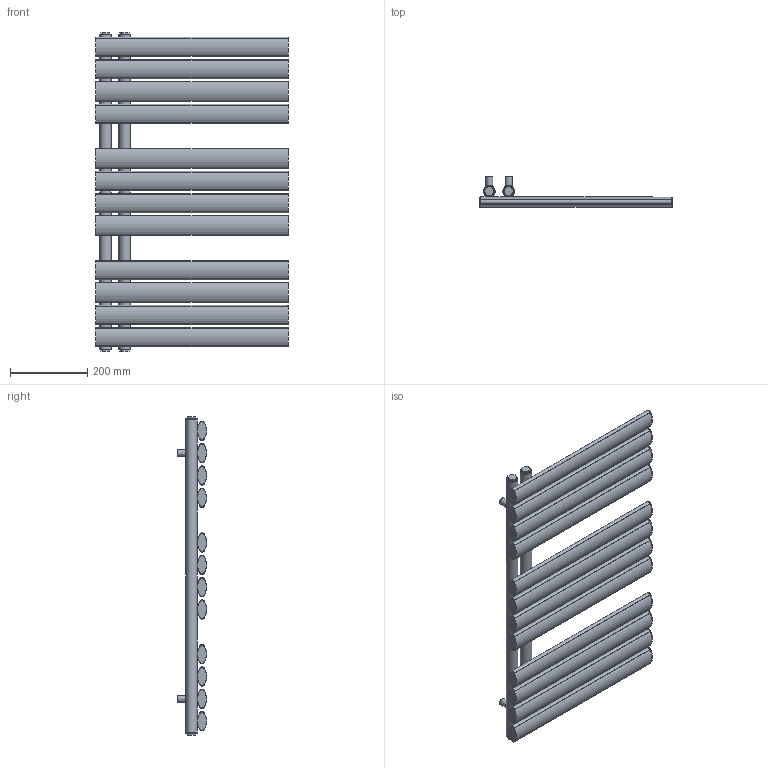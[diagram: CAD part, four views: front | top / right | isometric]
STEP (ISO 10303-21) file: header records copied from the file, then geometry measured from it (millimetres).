
FILE_DESCRIPTION(/* description */ (''),/* implementation_level */ '2;1');
FILE_NAME(/* name */ 'C:\Grzejniki\13DLUXRAD\łazienkowe\FLAG BIS\FLAG BIS 816x500.iam.stp',/* time_stamp */ '2016-06-28T17:34:54+02:00',/* author */ ('m.szydziak'),/* organization */ (''),/* preprocessor_version */ 'ST-DEVELOPER v16.5',/* originating_system */ 'Autodesk Inventor 2017',/* authorisation */ '');
FILE_SCHEMA (('AUTOMOTIVE_DESIGN { 1 0 10303 214 3 1 1 }'));
Length unit declared in the file: millimetre
Products named in the file (5): FLAG BIS 816x500; fi30x1,5x816; 50x25x1,2x500E; uchwyt stały; korek
Assembly tree (22 placements, depth 2):
  FLAG BIS 816x500
    fi30x1,5x816  x2
    50x25x1,2x500E  x12
    uchwyt stały  x4
    korek  x4
Bounding box: 500 x 76.86 x 828 mm (x, y, z)
Volume: 1100533 mm3; surface area: 1749078.5 mm2
Topology: 22 solids, 22 shells, 284 faces, 738 edges, 526 vertices
Faces by surface type: cylinder 164, plane 120
Full cylindrical faces by diameter (mm): 5 x24, 6 x24, 15 x4, 18 x4, 18.631 x4, 24 x4, 27 x2, 30 x2
Entity records: 2739 total; most frequent: CARTESIAN_POINT 1242, DIRECTION 274, ORIENTED_EDGE 230, AXIS2_PLACEMENT_3D 121, EDGE_CURVE 115, EDGE_LOOP 108, VERTEX_POINT 95, FACE_BOUND 55
